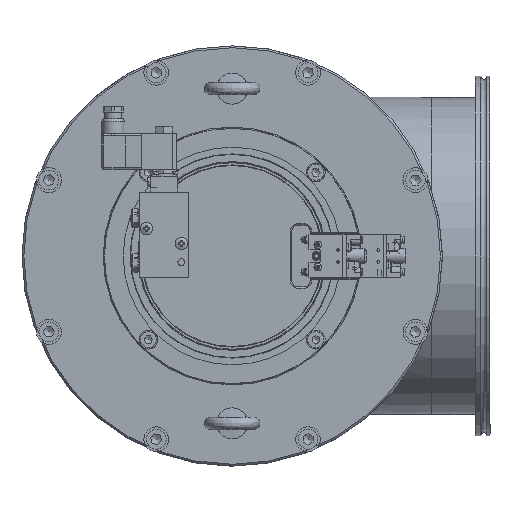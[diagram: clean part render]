
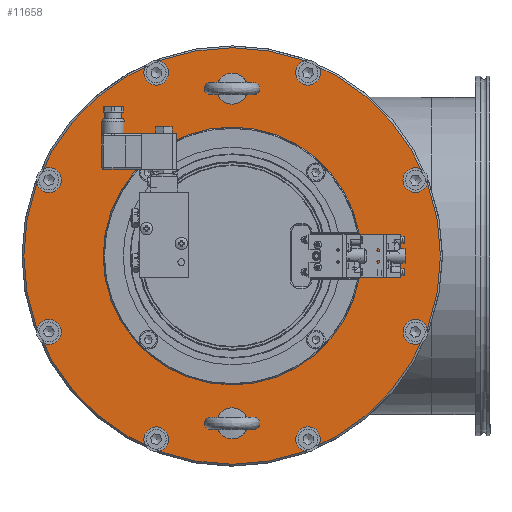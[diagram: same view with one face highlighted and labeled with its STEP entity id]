
A CAD part, left-side view. The second image highlights one B-rep face of the part: STEP entity #11658.
In plain terms, the highlighted planar face has unit normal (-1, 0, 0) as drawn and (0, 0, -1) by its records, which use the part's own axes.
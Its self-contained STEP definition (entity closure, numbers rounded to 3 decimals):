
#10752=FACE_BOUND('',#14177,.T.);
#10753=FACE_BOUND('',#14178,.T.);
#10754=FACE_BOUND('',#14179,.T.);
#10755=FACE_BOUND('',#14180,.T.);
#10756=FACE_BOUND('',#14181,.T.);
#10757=FACE_BOUND('',#14182,.T.);
#10758=FACE_BOUND('',#14183,.T.);
#10759=FACE_BOUND('',#14184,.T.);
#10760=FACE_BOUND('',#14185,.T.);
#10761=FACE_BOUND('',#14186,.T.);
#10762=FACE_BOUND('',#14187,.T.);
#10763=FACE_BOUND('',#14188,.T.);
#10764=FACE_BOUND('',#14189,.T.);
#10765=FACE_BOUND('',#14190,.T.);
#10766=FACE_BOUND('',#14191,.T.);
#10767=FACE_BOUND('',#14192,.T.);
#11658=ADVANCED_FACE('BCT_REF_50658',(#10752,#10753,#10754,#10755,#10756,
#10757,#10758,#10759,#10760,#10761,#10762,#10763,#10764,#10765,#10766,#10767),
#12697,.F.);
#12697=PLANE('',#24930);
#14177=EDGE_LOOP('',(#15923));
#14178=EDGE_LOOP('',(#15924));
#14179=EDGE_LOOP('',(#15925));
#14180=EDGE_LOOP('',(#15926));
#14181=EDGE_LOOP('',(#15927));
#14182=EDGE_LOOP('',(#15928));
#14183=EDGE_LOOP('',(#15929));
#14184=EDGE_LOOP('',(#15930));
#14185=EDGE_LOOP('',(#15931));
#14186=EDGE_LOOP('',(#15932));
#14187=EDGE_LOOP('',(#15933));
#14188=EDGE_LOOP('',(#15934));
#14189=EDGE_LOOP('',(#15935));
#14190=EDGE_LOOP('',(#15936));
#14191=EDGE_LOOP('',(#15937));
#14192=EDGE_LOOP('',(#15938));
#15923=ORIENTED_EDGE('',*,*,#21809,.T.);
#15924=ORIENTED_EDGE('',*,*,#21810,.T.);
#15925=ORIENTED_EDGE('',*,*,#21811,.T.);
#15926=ORIENTED_EDGE('',*,*,#21812,.T.);
#15927=ORIENTED_EDGE('',*,*,#21813,.T.);
#15928=ORIENTED_EDGE('',*,*,#21814,.T.);
#15929=ORIENTED_EDGE('',*,*,#21815,.T.);
#15930=ORIENTED_EDGE('',*,*,#21816,.T.);
#15931=ORIENTED_EDGE('',*,*,#21817,.T.);
#15932=ORIENTED_EDGE('',*,*,#21818,.T.);
#15933=ORIENTED_EDGE('',*,*,#21819,.T.);
#15934=ORIENTED_EDGE('',*,*,#21820,.T.);
#15935=ORIENTED_EDGE('',*,*,#21821,.T.);
#15936=ORIENTED_EDGE('',*,*,#21822,.T.);
#15937=ORIENTED_EDGE('',*,*,#21823,.T.);
#15938=ORIENTED_EDGE('',*,*,#21824,.T.);
#20177=VERTEX_POINT('',#33153);
#20178=VERTEX_POINT('',#33155);
#20179=VERTEX_POINT('',#33157);
#20180=VERTEX_POINT('',#33159);
#20181=VERTEX_POINT('',#33161);
#20182=VERTEX_POINT('',#33163);
#20183=VERTEX_POINT('',#33165);
#20184=VERTEX_POINT('',#33167);
#20185=VERTEX_POINT('',#33169);
#20186=VERTEX_POINT('',#33171);
#20187=VERTEX_POINT('',#33173);
#20188=VERTEX_POINT('',#33175);
#20189=VERTEX_POINT('',#33177);
#20190=VERTEX_POINT('',#33179);
#20191=VERTEX_POINT('',#33181);
#20192=VERTEX_POINT('',#33183);
#21809=EDGE_CURVE('BCT_REF_75933',#20177,#20177,#23972,.T.);
#21810=EDGE_CURVE('BCT_REF_50675',#20178,#20178,#23973,.T.);
#21811=EDGE_CURVE('BCT_REF_50672',#20179,#20179,#23974,.T.);
#21812=EDGE_CURVE('BCT_REF_50642',#20180,#20180,#23975,.T.);
#21813=EDGE_CURVE('',#20181,#20181,#23976,.T.);
#21814=EDGE_CURVE('BCT_REF_50687',#20182,#20182,#23977,.T.);
#21815=EDGE_CURVE('',#20183,#20183,#23978,.T.);
#21816=EDGE_CURVE('',#20184,#20184,#23979,.T.);
#21817=EDGE_CURVE('',#20185,#20185,#23980,.T.);
#21818=EDGE_CURVE('',#20186,#20186,#23981,.T.);
#21819=EDGE_CURVE('',#20187,#20187,#23982,.T.);
#21820=EDGE_CURVE('',#20188,#20188,#23983,.T.);
#21821=EDGE_CURVE('',#20189,#20189,#23984,.T.);
#21822=EDGE_CURVE('',#20190,#20190,#23985,.T.);
#21823=EDGE_CURVE('',#20191,#20191,#23986,.T.);
#21824=EDGE_CURVE('',#20192,#20192,#23987,.T.);
#23972=CIRCLE('',#24914,168.);
#23973=CIRCLE('',#24915,88.75);
#23974=CIRCLE('',#24916,4.25);
#23975=CIRCLE('',#24917,4.25);
#23976=CIRCLE('',#24918,4.25);
#23977=CIRCLE('',#24919,4.25);
#23978=CIRCLE('',#24920,4.25);
#23979=CIRCLE('',#24921,4.25);
#23980=CIRCLE('',#24922,5.5);
#23981=CIRCLE('',#24923,5.5);
#23982=CIRCLE('',#24924,5.5);
#23983=CIRCLE('',#24925,5.5);
#23984=CIRCLE('',#24926,5.5);
#23985=CIRCLE('',#24927,5.5);
#23986=CIRCLE('',#24928,5.5);
#23987=CIRCLE('',#24929,5.5);
#24914=AXIS2_PLACEMENT_3D('',#33152,#27132,#27133);
#24915=AXIS2_PLACEMENT_3D('',#33154,#27134,#27135);
#24916=AXIS2_PLACEMENT_3D('',#33156,#27136,#27137);
#24917=AXIS2_PLACEMENT_3D('',#33158,#27138,#27139);
#24918=AXIS2_PLACEMENT_3D('',#33160,#27140,#27141);
#24919=AXIS2_PLACEMENT_3D('',#33162,#27142,#27143);
#24920=AXIS2_PLACEMENT_3D('',#33164,#27144,#27145);
#24921=AXIS2_PLACEMENT_3D('',#33166,#27146,#27147);
#24922=AXIS2_PLACEMENT_3D('',#33168,#27148,#27149);
#24923=AXIS2_PLACEMENT_3D('',#33170,#27150,#27151);
#24924=AXIS2_PLACEMENT_3D('',#33172,#27152,#27153);
#24925=AXIS2_PLACEMENT_3D('',#33174,#27154,#27155);
#24926=AXIS2_PLACEMENT_3D('',#33176,#27156,#27157);
#24927=AXIS2_PLACEMENT_3D('',#33178,#27158,#27159);
#24928=AXIS2_PLACEMENT_3D('',#33180,#27160,#27161);
#24929=AXIS2_PLACEMENT_3D('',#33182,#27162,#27163);
#24930=AXIS2_PLACEMENT_3D('',#33184,#27164,#27165);
#27132=DIRECTION('',(0.,0.,-1.));
#27133=DIRECTION('',(1.,0.,0.));
#27134=DIRECTION('',(0.,0.,1.));
#27135=DIRECTION('',(1.,0.,0.));
#27136=DIRECTION('',(0.,0.,1.));
#27137=DIRECTION('',(1.,0.,0.));
#27138=DIRECTION('',(0.,0.,1.));
#27139=DIRECTION('',(1.,0.,0.));
#27140=DIRECTION('',(0.,0.,1.));
#27141=DIRECTION('',(0.,-1.,0.));
#27142=DIRECTION('',(0.,0.,1.));
#27143=DIRECTION('',(-1.,0.,0.));
#27144=DIRECTION('',(0.,0.,1.));
#27145=DIRECTION('',(0.,1.,0.));
#27146=DIRECTION('',(0.,0.,1.));
#27147=DIRECTION('',(1.,0.,0.));
#27148=DIRECTION('',(0.,0.,1.));
#27149=DIRECTION('',(0.707,-0.707,0.));
#27150=DIRECTION('',(0.,0.,1.));
#27151=DIRECTION('',(0.,-1.,0.));
#27152=DIRECTION('',(0.,0.,1.));
#27153=DIRECTION('',(-0.707,-0.707,0.));
#27154=DIRECTION('',(0.,0.,1.));
#27155=DIRECTION('',(-1.,0.,0.));
#27156=DIRECTION('',(0.,0.,1.));
#27157=DIRECTION('',(-0.707,0.707,0.));
#27158=DIRECTION('',(0.,0.,1.));
#27159=DIRECTION('',(0.,1.,0.));
#27160=DIRECTION('',(0.,0.,1.));
#27161=DIRECTION('',(0.707,0.707,0.));
#27162=DIRECTION('',(0.,0.,1.));
#27163=DIRECTION('',(1.,0.,0.));
#27164=DIRECTION('',(0.,0.,1.));
#27165=DIRECTION('',(1.,0.,0.));
#33152=CARTESIAN_POINT('',(0.,0.,0.));
#33153=CARTESIAN_POINT('',(168.,0.,0.));
#33154=CARTESIAN_POINT('',(0.,0.,0.));
#33155=CARTESIAN_POINT('',(88.75,0.,0.));
#33156=CARTESIAN_POINT('',(0.,135.,0.));
#33157=CARTESIAN_POINT('',(4.25,135.,0.));
#33158=CARTESIAN_POINT('',(0.,-135.,0.));
#33159=CARTESIAN_POINT('',(4.25,-135.,0.));
#33160=CARTESIAN_POINT('',(-67.529,-67.529,0.));
#33161=CARTESIAN_POINT('',(-67.529,-71.779,0.));
#33162=CARTESIAN_POINT('',(-67.529,67.529,0.));
#33163=CARTESIAN_POINT('',(-71.779,67.529,0.));
#33164=CARTESIAN_POINT('',(67.529,67.529,0.));
#33165=CARTESIAN_POINT('',(67.529,71.779,0.));
#33166=CARTESIAN_POINT('',(67.529,-67.529,0.));
#33167=CARTESIAN_POINT('',(71.779,-67.529,0.));
#33168=CARTESIAN_POINT('',(61.229,-147.821,0.));
#33169=CARTESIAN_POINT('',(65.118,-151.71,0.));
#33170=CARTESIAN_POINT('',(-61.229,-147.821,0.));
#33171=CARTESIAN_POINT('',(-61.229,-153.321,0.));
#33172=CARTESIAN_POINT('',(-147.821,-61.229,0.));
#33173=CARTESIAN_POINT('',(-151.71,-65.118,0.));
#33174=CARTESIAN_POINT('',(-147.821,61.229,0.));
#33175=CARTESIAN_POINT('',(-153.321,61.229,0.));
#33176=CARTESIAN_POINT('',(-61.229,147.821,0.));
#33177=CARTESIAN_POINT('',(-65.118,151.71,0.));
#33178=CARTESIAN_POINT('',(61.229,147.821,0.));
#33179=CARTESIAN_POINT('',(61.229,153.321,0.));
#33180=CARTESIAN_POINT('',(147.821,61.229,0.));
#33181=CARTESIAN_POINT('',(151.71,65.118,0.));
#33182=CARTESIAN_POINT('',(147.821,-61.229,0.));
#33183=CARTESIAN_POINT('',(153.321,-61.229,0.));
#33184=CARTESIAN_POINT('',(169.5,0.,0.));
